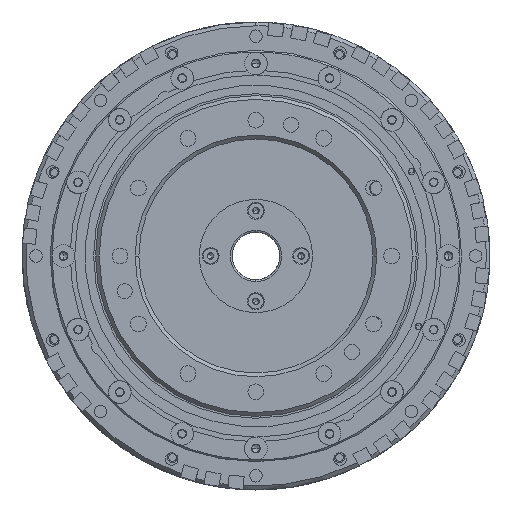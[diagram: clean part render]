
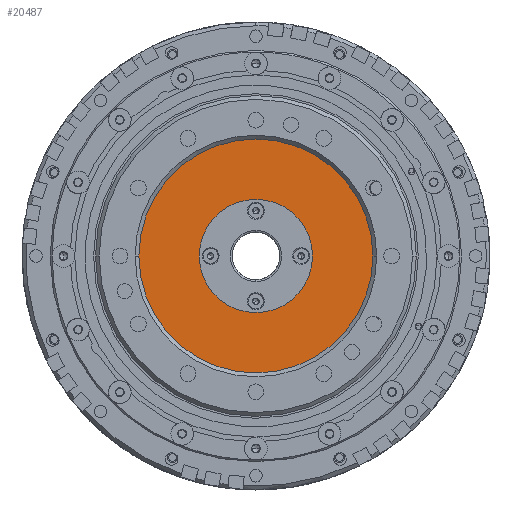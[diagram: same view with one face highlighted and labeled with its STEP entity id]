
A CAD part, front view. The second image highlights one B-rep face of the part: STEP entity #20487.
In plain terms, the highlighted planar face has unit normal (0, -1, 0).
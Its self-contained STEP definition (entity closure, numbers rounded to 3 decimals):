
#636 = ORIENTED_EDGE ( 'NONE', *, *, #20186, .T. ) ;
#797 = AXIS2_PLACEMENT_3D ( 'NONE', #26670, #30372, #12934 ) ;
#1244 = CIRCLE ( 'NONE', #27932, 15. ) ;
#1639 = AXIS2_PLACEMENT_3D ( 'NONE', #42488, #3688, #38312 ) ;
#1693 = AXIS2_PLACEMENT_3D ( 'NONE', #31622, #45784, #34651 ) ;
#3191 = VERTEX_POINT ( 'NONE', #35583 ) ;
#3688 = DIRECTION ( 'NONE',  ( 0., -1., 0. ) ) ;
#7155 = ORIENTED_EDGE ( 'NONE', *, *, #37302, .F. ) ;
#7377 = CARTESIAN_POINT ( 'NONE',  ( 0., -5., 0. ) ) ;
#8769 = PLANE ( 'NONE',  #797 ) ;
#9798 = CIRCLE ( 'NONE', #1639, 31. ) ;
#12934 = DIRECTION ( 'NONE',  ( -1., 0., 0. ) ) ;
#14494 = CARTESIAN_POINT ( 'NONE',  ( 15., -5., 0. ) ) ;
#15036 = DIRECTION ( 'NONE',  ( 0., -1., 0. ) ) ;
#16226 = DIRECTION ( 'NONE',  ( 0., -1., 0. ) ) ;
#19514 = VERTEX_POINT ( 'NONE', #28632 ) ;
#20186 = EDGE_CURVE ( 'NONE', #3191, #22801, #38595, .T. ) ;
#20392 = CARTESIAN_POINT ( 'NONE',  ( 0., -5., 0. ) ) ;
#20487 = ADVANCED_FACE ( 'NONE', ( #23841, #34082 ), #8769, .T. ) ;
#21723 = CIRCLE ( 'NONE', #1693, 15. ) ;
#22801 = VERTEX_POINT ( 'NONE', #42762 ) ;
#23841 = FACE_BOUND ( 'NONE', #32345, .T. ) ;
#25283 = EDGE_CURVE ( 'NONE', #19514, #40058, #21723, .T. ) ;
#26670 = CARTESIAN_POINT ( 'NONE',  ( 0., -5., 0. ) ) ;
#26719 = DIRECTION ( 'NONE',  ( -1., 0., 0. ) ) ;
#27932 = AXIS2_PLACEMENT_3D ( 'NONE', #7377, #15036, #35489 ) ;
#28632 = CARTESIAN_POINT ( 'NONE',  ( -15., -5., 0. ) ) ;
#30372 = DIRECTION ( 'NONE',  ( 0., -1., 0. ) ) ;
#31622 = CARTESIAN_POINT ( 'NONE',  ( 0., -5., 0. ) ) ;
#32345 = EDGE_LOOP ( 'NONE', ( #36404, #7155 ) ) ;
#33921 = EDGE_CURVE ( 'NONE', #22801, #3191, #9798, .T. ) ;
#34082 = FACE_OUTER_BOUND ( 'NONE', #38480, .T. ) ;
#34651 = DIRECTION ( 'NONE',  ( -1., 0., 0. ) ) ;
#35489 = DIRECTION ( 'NONE',  ( -1., 0., 0. ) ) ;
#35583 = CARTESIAN_POINT ( 'NONE',  ( 31., -5., 0. ) ) ;
#36404 = ORIENTED_EDGE ( 'NONE', *, *, #25283, .F. ) ;
#37302 = EDGE_CURVE ( 'NONE', #40058, #19514, #1244, .T. ) ;
#38312 = DIRECTION ( 'NONE',  ( -1., 0., 0. ) ) ;
#38480 = EDGE_LOOP ( 'NONE', ( #45349, #636 ) ) ;
#38595 = CIRCLE ( 'NONE', #44532, 31. ) ;
#40058 = VERTEX_POINT ( 'NONE', #14494 ) ;
#42488 = CARTESIAN_POINT ( 'NONE',  ( 0., -5., 0. ) ) ;
#42762 = CARTESIAN_POINT ( 'NONE',  ( -31., -5., 0. ) ) ;
#44532 = AXIS2_PLACEMENT_3D ( 'NONE', #20392, #16226, #26719 ) ;
#45349 = ORIENTED_EDGE ( 'NONE', *, *, #33921, .T. ) ;
#45784 = DIRECTION ( 'NONE',  ( 0., -1., 0. ) ) ;
